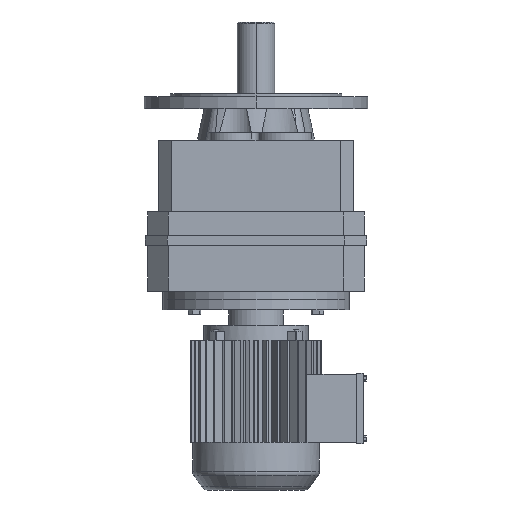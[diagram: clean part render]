
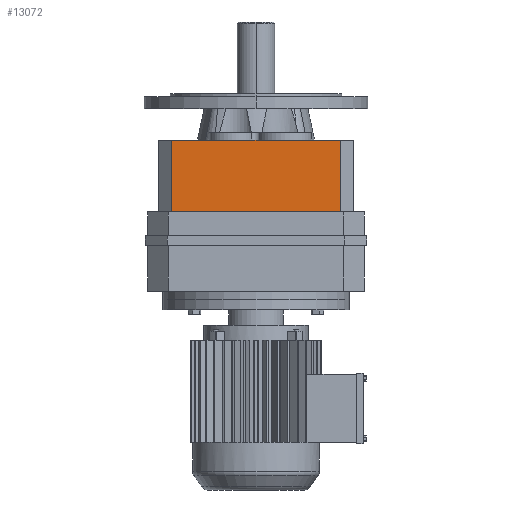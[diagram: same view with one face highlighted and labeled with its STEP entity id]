
A CAD part, front view. The second image highlights one B-rep face of the part: STEP entity #13072.
In plain terms, the highlighted planar face has unit normal (0, -1, 0).
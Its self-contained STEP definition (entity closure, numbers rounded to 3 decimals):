
#3224 = PLANE('',#3225);
#3225 = AXIS2_PLACEMENT_3D('',#3226,#3227,#3228);
#3226 = CARTESIAN_POINT('',(128.07,-97.2,117.645));
#3227 = DIRECTION('',(0.,0.,1.));
#3228 = DIRECTION('',(1.,0.,0.));
#7441 = VERTEX_POINT('',#7442);
#7442 = CARTESIAN_POINT('',(112.86,-126.,117.645));
#7456 = PLANE('',#7457);
#7457 = AXIS2_PLACEMENT_3D('',#7458,#7459,#7460);
#7458 = CARTESIAN_POINT('',(112.86,-126.,117.645));
#7459 = DIRECTION('',(-0.707,0.707,0.));
#7460 = DIRECTION('',(-0.707,-0.707,0.));
#7468 = EDGE_CURVE('',#7441,#7469,#7471,.T.);
#7469 = VERTEX_POINT('',#7470);
#7470 = CARTESIAN_POINT('',(-112.86,-126.,117.645));
#7471 = SURFACE_CURVE('',#7472,(#7476,#7483),.PCURVE_S1.);
#7472 = LINE('',#7473,#7474);
#7473 = CARTESIAN_POINT('',(-112.86,-126.,117.645));
#7474 = VECTOR('',#7475,1.);
#7475 = DIRECTION('',(-1.,0.,0.));
#7476 = PCURVE('',#3224,#7477);
#7477 = DEFINITIONAL_REPRESENTATION('',(#7478),#7482);
#7478 = LINE('',#7479,#7480);
#7479 = CARTESIAN_POINT('',(-240.93,-28.8));
#7480 = VECTOR('',#7481,1.);
#7481 = DIRECTION('',(-1.,0.));
#7482 = ( GEOMETRIC_REPRESENTATION_CONTEXT(2) 
PARAMETRIC_REPRESENTATION_CONTEXT() REPRESENTATION_CONTEXT('2D SPACE',''
  ) );
#7483 = PCURVE('',#7484,#7489);
#7484 = PLANE('',#7485);
#7485 = AXIS2_PLACEMENT_3D('',#7486,#7487,#7488);
#7486 = CARTESIAN_POINT('',(-112.86,-126.,117.645));
#7487 = DIRECTION('',(0.,1.,0.));
#7488 = DIRECTION('',(0.,0.,1.));
#7489 = DEFINITIONAL_REPRESENTATION('',(#7490),#7494);
#7490 = LINE('',#7491,#7492);
#7491 = CARTESIAN_POINT('',(0.,0.));
#7492 = VECTOR('',#7493,1.);
#7493 = DIRECTION('',(0.,-1.));
#7494 = ( GEOMETRIC_REPRESENTATION_CONTEXT(2) 
PARAMETRIC_REPRESENTATION_CONTEXT() REPRESENTATION_CONTEXT('2D SPACE',''
  ) );
#7512 = PLANE('',#7513);
#7513 = AXIS2_PLACEMENT_3D('',#7514,#7515,#7516);
#7514 = CARTESIAN_POINT('',(-112.86,-126.,117.645));
#7515 = DIRECTION('',(0.707,0.707,0.));
#7516 = DIRECTION('',(-0.707,0.707,0.));
#9037 = PLANE('',#9038);
#9038 = AXIS2_PLACEMENT_3D('',#9039,#9040,#9041);
#9039 = CARTESIAN_POINT('',(-250.205,-23.4,213.9));
#9040 = DIRECTION('',(0.,0.,1.));
#9041 = DIRECTION('',(1.,0.,0.));
#10706 = VERTEX_POINT('',#10707);
#10707 = CARTESIAN_POINT('',(-112.86,-126.,213.9));
#10752 = EDGE_CURVE('',#7469,#10706,#10753,.T.);
#10753 = SURFACE_CURVE('',#10754,(#10758,#10765),.PCURVE_S1.);
#10754 = LINE('',#10755,#10756);
#10755 = CARTESIAN_POINT('',(-112.86,-126.,117.645));
#10756 = VECTOR('',#10757,1.);
#10757 = DIRECTION('',(0.,0.,1.));
#10758 = PCURVE('',#7512,#10759);
#10759 = DEFINITIONAL_REPRESENTATION('',(#10760),#10764);
#10760 = LINE('',#10761,#10762);
#10761 = CARTESIAN_POINT('',(0.,0.));
#10762 = VECTOR('',#10763,1.);
#10763 = DIRECTION('',(0.,1.));
#10764 = ( GEOMETRIC_REPRESENTATION_CONTEXT(2) 
PARAMETRIC_REPRESENTATION_CONTEXT() REPRESENTATION_CONTEXT('2D SPACE',''
  ) );
#10765 = PCURVE('',#7484,#10766);
#10766 = DEFINITIONAL_REPRESENTATION('',(#10767),#10771);
#10767 = LINE('',#10768,#10769);
#10768 = CARTESIAN_POINT('',(0.,0.));
#10769 = VECTOR('',#10770,1.);
#10770 = DIRECTION('',(1.,0.));
#10771 = ( GEOMETRIC_REPRESENTATION_CONTEXT(2) 
PARAMETRIC_REPRESENTATION_CONTEXT() REPRESENTATION_CONTEXT('2D SPACE',''
  ) );
#12027 = VERTEX_POINT('',#12028);
#12028 = CARTESIAN_POINT('',(112.86,-126.,213.9));
#12049 = EDGE_CURVE('',#7441,#12027,#12050,.T.);
#12050 = SURFACE_CURVE('',#12051,(#12055,#12062),.PCURVE_S1.);
#12051 = LINE('',#12052,#12053);
#12052 = CARTESIAN_POINT('',(112.86,-126.,117.645));
#12053 = VECTOR('',#12054,1.);
#12054 = DIRECTION('',(0.,0.,1.));
#12055 = PCURVE('',#7456,#12056);
#12056 = DEFINITIONAL_REPRESENTATION('',(#12057),#12061);
#12057 = LINE('',#12058,#12059);
#12058 = CARTESIAN_POINT('',(0.,0.));
#12059 = VECTOR('',#12060,1.);
#12060 = DIRECTION('',(0.,1.));
#12061 = ( GEOMETRIC_REPRESENTATION_CONTEXT(2) 
PARAMETRIC_REPRESENTATION_CONTEXT() REPRESENTATION_CONTEXT('2D SPACE',''
  ) );
#12062 = PCURVE('',#7484,#12063);
#12063 = DEFINITIONAL_REPRESENTATION('',(#12064),#12068);
#12064 = LINE('',#12065,#12066);
#12065 = CARTESIAN_POINT('',(0.,225.72));
#12066 = VECTOR('',#12067,1.);
#12067 = DIRECTION('',(1.,0.));
#12068 = ( GEOMETRIC_REPRESENTATION_CONTEXT(2) 
PARAMETRIC_REPRESENTATION_CONTEXT() REPRESENTATION_CONTEXT('2D SPACE',''
  ) );
#13072 = ADVANCED_FACE('',(#13073),#7484,.F.);
#13073 = FACE_BOUND('',#13074,.T.);
#13074 = EDGE_LOOP('',(#13075,#13096,#13097,#13098));
#13075 = ORIENTED_EDGE('',*,*,#13076,.T.);
#13076 = EDGE_CURVE('',#12027,#10706,#13077,.T.);
#13077 = SURFACE_CURVE('',#13078,(#13082,#13089),.PCURVE_S1.);
#13078 = LINE('',#13079,#13080);
#13079 = CARTESIAN_POINT('',(-112.86,-126.,213.9));
#13080 = VECTOR('',#13081,1.);
#13081 = DIRECTION('',(-1.,0.,0.));
#13082 = PCURVE('',#7484,#13083);
#13083 = DEFINITIONAL_REPRESENTATION('',(#13084),#13088);
#13084 = LINE('',#13085,#13086);
#13085 = CARTESIAN_POINT('',(96.255,0.));
#13086 = VECTOR('',#13087,1.);
#13087 = DIRECTION('',(0.,-1.));
#13088 = ( GEOMETRIC_REPRESENTATION_CONTEXT(2) 
PARAMETRIC_REPRESENTATION_CONTEXT() REPRESENTATION_CONTEXT('2D SPACE',''
  ) );
#13089 = PCURVE('',#9037,#13090);
#13090 = DEFINITIONAL_REPRESENTATION('',(#13091),#13095);
#13091 = LINE('',#13092,#13093);
#13092 = CARTESIAN_POINT('',(137.345,-102.6));
#13093 = VECTOR('',#13094,1.);
#13094 = DIRECTION('',(-1.,0.));
#13095 = ( GEOMETRIC_REPRESENTATION_CONTEXT(2) 
PARAMETRIC_REPRESENTATION_CONTEXT() REPRESENTATION_CONTEXT('2D SPACE',''
  ) );
#13096 = ORIENTED_EDGE('',*,*,#10752,.F.);
#13097 = ORIENTED_EDGE('',*,*,#7468,.F.);
#13098 = ORIENTED_EDGE('',*,*,#12049,.T.);
